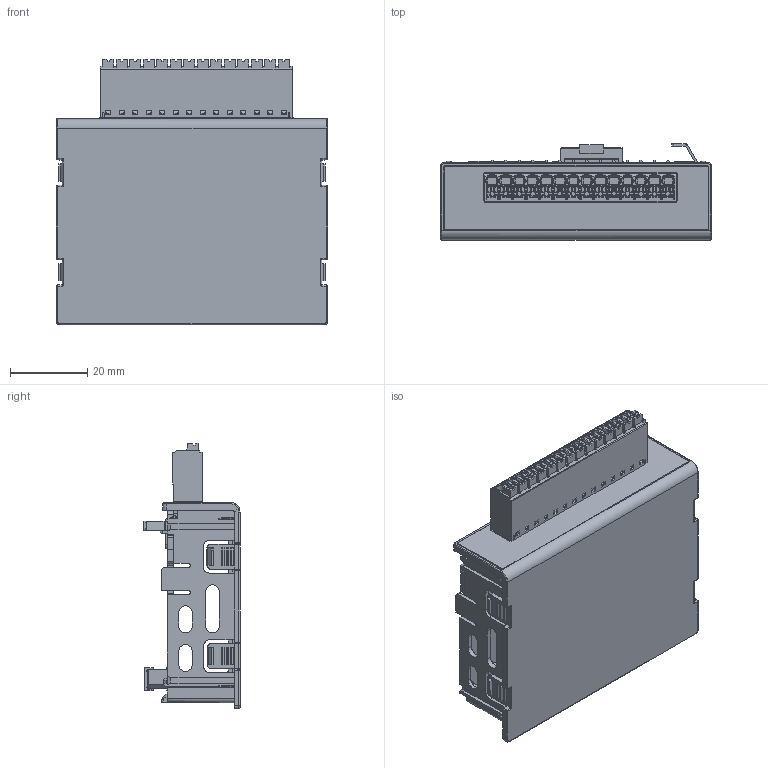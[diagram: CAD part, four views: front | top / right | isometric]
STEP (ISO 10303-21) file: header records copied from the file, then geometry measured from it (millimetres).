
FILE_DESCRIPTION((''),'2;1');
FILE_NAME('TS600-KZK-MN_ASM','2025-08-18T16:45:45',('Administrator'),(''),'CREO PARAMETRIC BY PTC INC, 2019080','CREO PARAMETRIC BY PTC INC, 2019080','');
FILE_SCHEMA(('CONFIG_CONTROL_DESIGN'));
Products named in the file (10): 80740508; 17003-05686-KZK; E-JK2; E-DIN0217-0_8MM-TF; F8A-3-3_5-14P-5; E-SD0702A; F7EM-3_5-14PL-A-100_1_; KZKMN_ASM; TS600-5-2; TS600-KZK-MN_ASM
Assembly tree (10 placements, depth 3):
  TS600-KZK-MN_ASM
    80740508
    KZKMN_ASM
      17003-05686-KZK
      E-JK2
      E-DIN0217-0_8MM-TF
      F8A-3-3_5-14P-5
      E-SD0702A  x2
      F7EM-3_5-14PL-A-100_1_
    TS600-5-2
Bounding box: 70.2 x 24.9 x 68.86 mm (x, y, z)
Volume: 25440.9 mm3; surface area: 54769.5 mm2
Topology: 9 solids, 141 shells, 9233 faces, 26072 edges, 17116 vertices
Faces by surface type: plane 7058, cylinder 1601, cone 210, torus 178, sphere 120, bspline 65, extrusion 1
Entity records: 301432 total; most frequent: CARTESIAN_POINT 66139, ORIENTED_EDGE 51212, DIRECTION 45517, EDGE_CURVE 25734, VECTOR 19403, LINE 19402, VERTEX_POINT 16968, AXIS2_PLACEMENT_3D 13057
